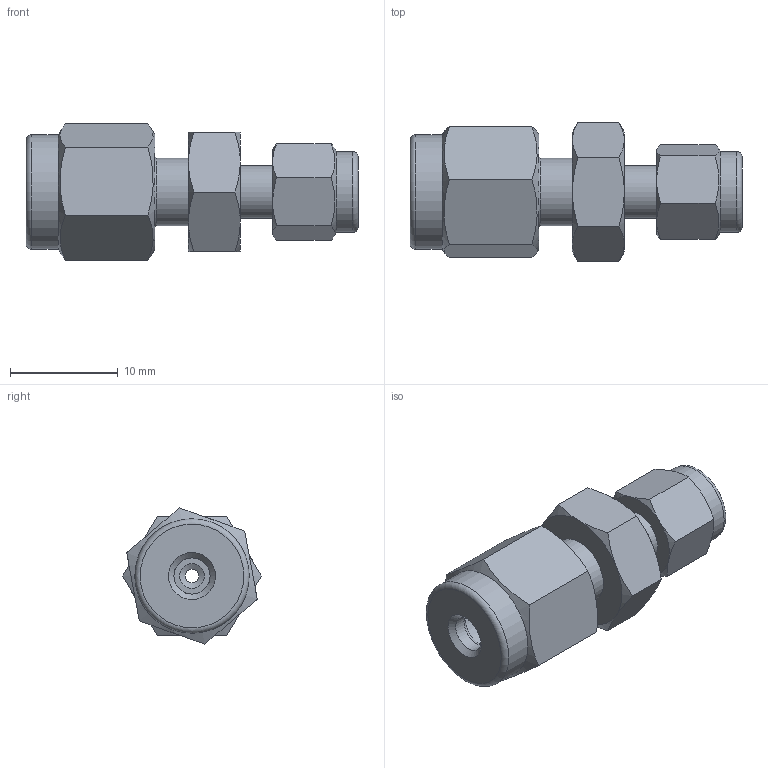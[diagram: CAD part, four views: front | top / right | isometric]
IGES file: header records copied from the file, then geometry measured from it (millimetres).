
Global section: file name: No Iges File Name specified; native system: Autodesk Inventor 2012; preprocessor: AutoDesk Inventor Iges Exporter R2012; author: 硅己绕,,1; organization: 1; date: 20150427.194051; units: millimetre
Bounding box: 30.75 x 12.83 x 12.61 mm (x, y, z)
Volume: 1977.7 mm3; surface area: 2043.5 mm2
Topology: 3 solids, 3 shells, 84 faces, 171 edges, 99 vertices
Faces by surface type: plane 30, cone 24, revolution 18, cylinder 7, torus 5
Full cylindrical faces by diameter (mm): 3.5 x1, 4.861 x1, 6.28 x2, 7.5 x1, 7.94 x1, 10.6 x1
